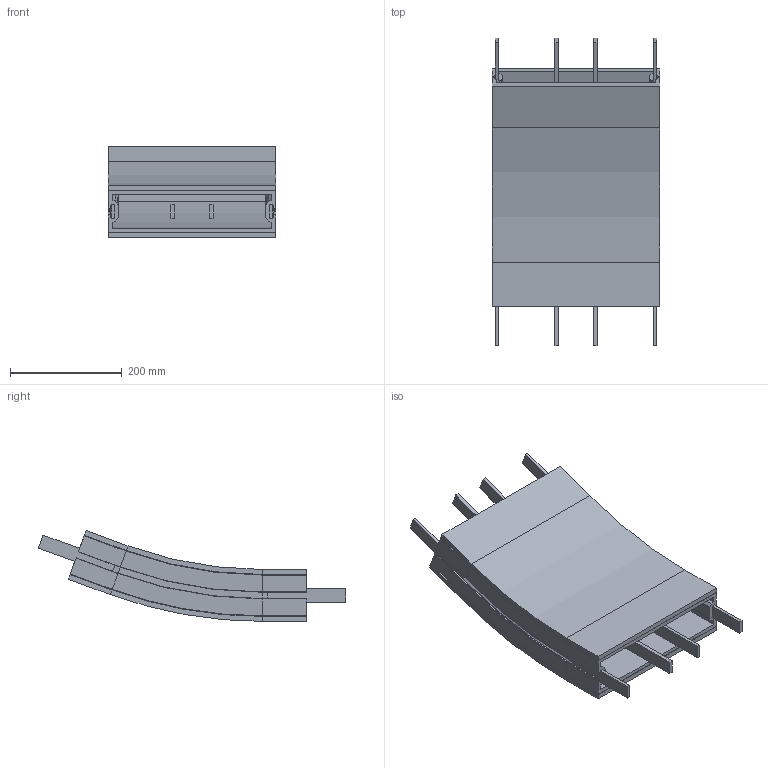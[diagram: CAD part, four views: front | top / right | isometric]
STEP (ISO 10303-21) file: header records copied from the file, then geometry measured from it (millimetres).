
FILE_DESCRIPTION (( 'STEP AP214' ), '1' );
FILE_NAME ('FBBV 20A300R750L80L80.00.step', '2026-05-29T10:33:33', ( '' ), ( '' ), 'SwSTEP 2.0', 'SolidWorks 2024', '' );
FILE_SCHEMA (( 'AUTOMOTIVE_DESIGN' ));
Length unit declared in the file: millimetre
Products named in the file (1): FBBV 20A300R750L80L80.00
Bounding box: 300 x 551.74 x 162.79 mm (x, y, z)
Volume: 4722887.8 mm3; surface area: 1265565.9 mm2
Topology: 11 solids, 11 shells, 375 faces, 845 edges, 492 vertices
Faces by surface type: plane 278, cone 66, cylinder 26, torus 5
Entity records: 10191 total; most frequent: DIRECTION 1724, CARTESIAN_POINT 1713, ORIENTED_EDGE 1690, EDGE_CURVE 845, VECTOR 718, LINE 718, AXIS2_PLACEMENT_3D 503, VERTEX_POINT 492
